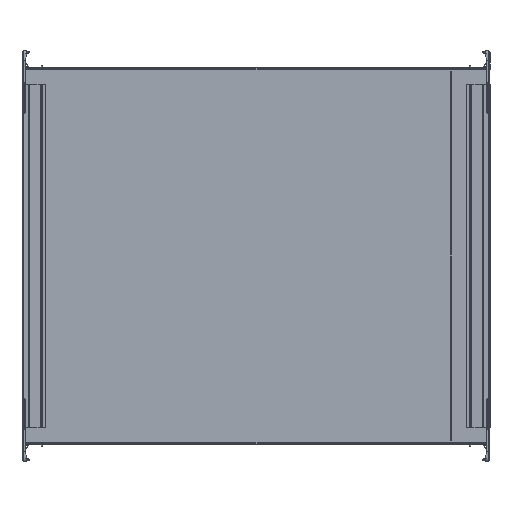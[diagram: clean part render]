
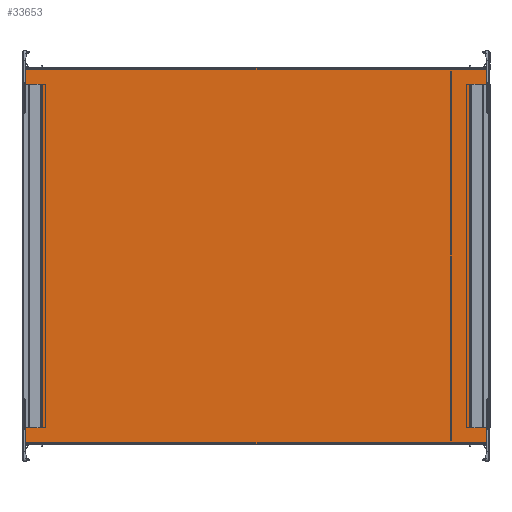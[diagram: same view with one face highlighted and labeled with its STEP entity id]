
A CAD part, front view. The second image highlights one B-rep face of the part: STEP entity #33653.
In plain terms, the highlighted planar face has unit normal (0, -1, 0).
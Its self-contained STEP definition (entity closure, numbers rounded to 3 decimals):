
#1838=FACE_BOUND('',#5214,.T.);
#1839=FACE_BOUND('',#5215,.T.);
#3415=FACE_OUTER_BOUND('',#5213,.T.);
#5213=EDGE_LOOP('',(#27504,#27505,#27506,#27507,#27508,#27509,#27510,#27511,
#27512,#27513,#27514,#27515));
#5214=EDGE_LOOP('',(#27516,#27517,#27518,#27519));
#5215=EDGE_LOOP('',(#27520,#27521,#27522,#27523));
#6857=LINE('',#47675,#9891);
#7266=LINE('',#51361,#10300);
#7992=LINE('',#55437,#11026);
#8622=LINE('',#58455,#11656);
#8639=LINE('',#58516,#11673);
#8667=LINE('',#58578,#11701);
#8669=LINE('',#58581,#11703);
#8673=LINE('',#58592,#11707);
#8678=LINE('',#58601,#11712);
#8688=LINE('',#58619,#11722);
#8689=LINE('',#58620,#11723);
#8690=LINE('',#58622,#11724);
#8691=LINE('',#58624,#11725);
#8692=LINE('',#58626,#11726);
#8693=LINE('',#58628,#11727);
#8694=LINE('',#58629,#11728);
#8695=LINE('',#58632,#11729);
#8696=LINE('',#58634,#11730);
#8697=LINE('',#58636,#11731);
#8698=LINE('',#58637,#11732);
#9891=VECTOR('',#37259,10.);
#10300=VECTOR('',#37852,10.);
#11026=VECTOR('',#39668,10.);
#11656=VECTOR('',#41770,10.);
#11673=VECTOR('',#41817,10.);
#11701=VECTOR('',#41905,10.);
#11703=VECTOR('',#41909,10.);
#11707=VECTOR('',#41925,10.);
#11712=VECTOR('',#41932,10.);
#11722=VECTOR('',#41946,10.);
#11723=VECTOR('',#41947,10.);
#11724=VECTOR('',#41948,10.);
#11725=VECTOR('',#41949,10.);
#11726=VECTOR('',#41950,10.);
#11727=VECTOR('',#41951,10.);
#11728=VECTOR('',#41952,10.);
#11729=VECTOR('',#41953,10.);
#11730=VECTOR('',#41954,10.);
#11731=VECTOR('',#41955,10.);
#11732=VECTOR('',#41956,10.);
#12961=VERTEX_POINT('',#47657);
#12969=VERTEX_POINT('',#47673);
#13468=VERTEX_POINT('',#51358);
#13469=VERTEX_POINT('',#51360);
#14251=VERTEX_POINT('',#55434);
#14252=VERTEX_POINT('',#55436);
#14277=VERTEX_POINT('',#55486);
#14868=VERTEX_POINT('',#58454);
#14896=VERTEX_POINT('',#58513);
#14897=VERTEX_POINT('',#58515);
#14902=VERTEX_POINT('',#58591);
#14905=VERTEX_POINT('',#58599);
#14912=VERTEX_POINT('',#58621);
#14913=VERTEX_POINT('',#58623);
#14914=VERTEX_POINT('',#58625);
#14915=VERTEX_POINT('',#58627);
#14916=VERTEX_POINT('',#58630);
#14917=VERTEX_POINT('',#58631);
#14918=VERTEX_POINT('',#58633);
#14919=VERTEX_POINT('',#58635);
#16355=EDGE_CURVE('',#12961,#12969,#6857,.T.);
#17098=EDGE_CURVE('',#13468,#13469,#7266,.T.);
#18161=EDGE_CURVE('',#14252,#14251,#7992,.T.);
#19181=EDGE_CURVE('',#14868,#14277,#8622,.T.);
#19212=EDGE_CURVE('',#14897,#14896,#8639,.T.);
#19244=EDGE_CURVE('',#14896,#14252,#8667,.T.);
#19246=EDGE_CURVE('',#14897,#14251,#8669,.T.);
#19250=EDGE_CURVE('',#14902,#14868,#8673,.T.);
#19255=EDGE_CURVE('',#14277,#14905,#8678,.T.);
#19265=EDGE_CURVE('',#14902,#12969,#8688,.T.);
#19266=EDGE_CURVE('',#14905,#13469,#8689,.T.);
#19267=EDGE_CURVE('',#14912,#13468,#8690,.T.);
#19268=EDGE_CURVE('',#14912,#14913,#8691,.T.);
#19269=EDGE_CURVE('',#14914,#14913,#8692,.T.);
#19270=EDGE_CURVE('',#14914,#14915,#8693,.T.);
#19271=EDGE_CURVE('',#14915,#12961,#8694,.T.);
#19272=EDGE_CURVE('',#14916,#14917,#8695,.T.);
#19273=EDGE_CURVE('',#14918,#14917,#8696,.T.);
#19274=EDGE_CURVE('',#14918,#14919,#8697,.T.);
#19275=EDGE_CURVE('',#14919,#14916,#8698,.T.);
#27504=ORIENTED_EDGE('',*,*,#16355,.T.);
#27505=ORIENTED_EDGE('',*,*,#19265,.F.);
#27506=ORIENTED_EDGE('',*,*,#19250,.T.);
#27507=ORIENTED_EDGE('',*,*,#19181,.T.);
#27508=ORIENTED_EDGE('',*,*,#19255,.T.);
#27509=ORIENTED_EDGE('',*,*,#19266,.T.);
#27510=ORIENTED_EDGE('',*,*,#17098,.F.);
#27511=ORIENTED_EDGE('',*,*,#19267,.F.);
#27512=ORIENTED_EDGE('',*,*,#19268,.T.);
#27513=ORIENTED_EDGE('',*,*,#19269,.F.);
#27514=ORIENTED_EDGE('',*,*,#19270,.T.);
#27515=ORIENTED_EDGE('',*,*,#19271,.T.);
#27516=ORIENTED_EDGE('',*,*,#19272,.T.);
#27517=ORIENTED_EDGE('',*,*,#19273,.F.);
#27518=ORIENTED_EDGE('',*,*,#19274,.T.);
#27519=ORIENTED_EDGE('',*,*,#19275,.T.);
#27520=ORIENTED_EDGE('',*,*,#19246,.F.);
#27521=ORIENTED_EDGE('',*,*,#19212,.T.);
#27522=ORIENTED_EDGE('',*,*,#19244,.T.);
#27523=ORIENTED_EDGE('',*,*,#18161,.T.);
#30970=PLANE('',#35704);
#33653=ADVANCED_FACE('',(#3415,#1838,#1839),#30970,.F.);
#35704=AXIS2_PLACEMENT_3D('',#58618,#41944,#41945);
#37259=DIRECTION('',(1.,0.,0.));
#37852=DIRECTION('',(1.,0.,0.));
#39668=DIRECTION('',(1.,0.,0.));
#41770=DIRECTION('',(0.,0.,1.));
#41817=DIRECTION('',(-1.,0.,0.));
#41905=DIRECTION('',(0.,0.,1.));
#41909=DIRECTION('',(0.,0.,1.));
#41925=DIRECTION('',(0.,0.,1.));
#41932=DIRECTION('',(0.,0.,1.));
#41944=DIRECTION('center_axis',(0.,1.,0.));
#41945=DIRECTION('ref_axis',(0.,0.,1.));
#41946=DIRECTION('',(0.,0.,-1.));
#41947=DIRECTION('',(0.,0.,1.));
#41948=DIRECTION('',(0.,0.,1.));
#41949=DIRECTION('',(0.,0.,-1.));
#41950=DIRECTION('',(0.,0.,1.));
#41951=DIRECTION('',(0.,0.,-1.));
#41952=DIRECTION('',(0.,0.,-1.));
#41953=DIRECTION('',(-1.,0.,0.));
#41954=DIRECTION('',(0.,0.,-1.));
#41955=DIRECTION('',(1.,0.,0.));
#41956=DIRECTION('',(0.,0.,-1.));
#47657=CARTESIAN_POINT('',(-24.464,-214.342,-17.));
#47673=CARTESIAN_POINT('',(475.536,-214.342,-17.));
#47675=CARTESIAN_POINT('',(225.536,-214.342,-17.));
#51358=CARTESIAN_POINT('',(-24.464,-214.342,385.));
#51360=CARTESIAN_POINT('',(475.536,-214.342,385.));
#51361=CARTESIAN_POINT('',(225.536,-214.342,385.));
#55434=CARTESIAN_POINT('',(468.481,-214.342,368.));
#55436=CARTESIAN_POINT('',(456.761,-214.342,368.));
#55437=CARTESIAN_POINT('',(347.029,-214.342,368.));
#55486=CARTESIAN_POINT('',(475.536,-214.342,368.));
#58454=CARTESIAN_POINT('',(475.536,-214.342,0.));
#58455=CARTESIAN_POINT('',(475.536,-214.342,-17.));
#58513=CARTESIAN_POINT('',(456.761,-214.342,0.));
#58515=CARTESIAN_POINT('',(468.481,-214.342,0.));
#58516=CARTESIAN_POINT('',(347.029,-214.342,0.));
#58578=CARTESIAN_POINT('',(456.761,-214.342,0.));
#58581=CARTESIAN_POINT('',(468.481,-214.342,0.));
#58591=CARTESIAN_POINT('',(475.536,-214.342,-15.));
#58592=CARTESIAN_POINT('',(475.536,-214.342,-17.));
#58599=CARTESIAN_POINT('',(475.536,-214.342,383.));
#58601=CARTESIAN_POINT('',(475.536,-214.342,-17.));
#58618=CARTESIAN_POINT('Origin',(225.536,-214.342,184.));
#58619=CARTESIAN_POINT('',(475.536,-214.342,84.));
#58620=CARTESIAN_POINT('',(475.536,-214.342,84.));
#58621=CARTESIAN_POINT('',(-24.464,-214.342,383.));
#58622=CARTESIAN_POINT('',(-24.464,-214.342,83.5));
#58623=CARTESIAN_POINT('',(-24.464,-214.342,368.));
#58624=CARTESIAN_POINT('',(-24.464,-214.342,385.));
#58625=CARTESIAN_POINT('',(-24.464,-214.342,0.));
#58626=CARTESIAN_POINT('',(-24.464,-214.342,276.));
#58627=CARTESIAN_POINT('',(-24.464,-214.342,-15.));
#58628=CARTESIAN_POINT('',(-24.464,-214.342,385.));
#58629=CARTESIAN_POINT('',(-24.464,-214.342,83.5));
#58630=CARTESIAN_POINT('',(-5.689,-214.342,0.));
#58631=CARTESIAN_POINT('',(-17.408,-214.342,0.));
#58632=CARTESIAN_POINT('',(-17.408,-214.342,0.));
#58633=CARTESIAN_POINT('',(-17.408,-214.342,368.));
#58634=CARTESIAN_POINT('',(-17.408,-214.342,368.));
#58635=CARTESIAN_POINT('',(-5.689,-214.342,368.));
#58636=CARTESIAN_POINT('',(-17.408,-214.342,368.));
#58637=CARTESIAN_POINT('',(-5.689,-214.342,368.));
